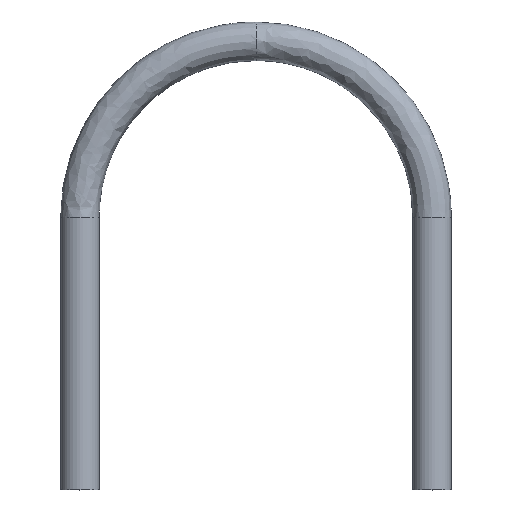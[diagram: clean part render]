
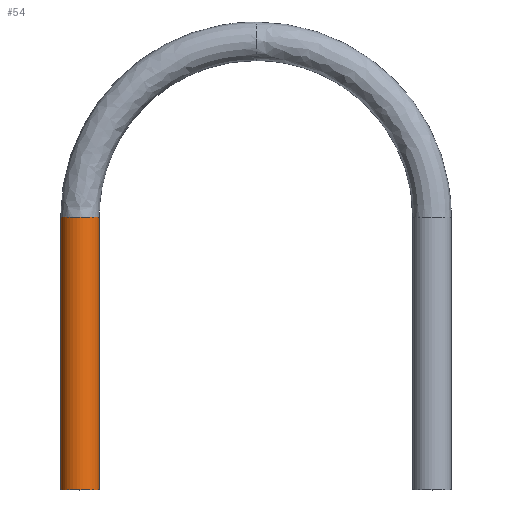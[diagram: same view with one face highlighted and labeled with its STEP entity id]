
A CAD part, top view. The second image highlights one B-rep face of the part: STEP entity #54.
In plain terms, the highlighted cylindrical face has radius 6.35 mm (diameter 12.7 mm), a partial arc.
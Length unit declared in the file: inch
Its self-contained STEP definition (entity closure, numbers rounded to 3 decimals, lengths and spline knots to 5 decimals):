
#54=ADVANCED_FACE('',(#107),#108,.T.);
#107=FACE_OUTER_BOUND('',#227,.T.);
#108=CYLINDRICAL_SURFACE('',#228,0.25);
#227=EDGE_LOOP('',(#488,#489,#490,#491));
#228=AXIS2_PLACEMENT_3D('',#492,#493,#494);
#488=ORIENTED_EDGE('',*,*,#548,.F.);
#489=ORIENTED_EDGE('',*,*,#549,.T.);
#490=ORIENTED_EDGE('',*,*,#550,.F.);
#491=ORIENTED_EDGE('',*,*,#551,.T.);
#492=CARTESIAN_POINT('',(0.,0.0,0.0));
#493=DIRECTION('',(-0.0,-1.0,-0.0));
#494=DIRECTION('',(-1.0,0.0,0.0));
#548=EDGE_CURVE('',#583,#584,#585,.T.);
#549=EDGE_CURVE('',#583,#586,#587,.T.);
#550=EDGE_CURVE('',#588,#586,#589,.T.);
#551=EDGE_CURVE('',#588,#584,#590,.T.);
#583=VERTEX_POINT('',#634);
#584=VERTEX_POINT('',#635);
#585=LINE('',#636,#637);
#586=VERTEX_POINT('',#638);
#587=CIRCLE('',#639,0.25);
#588=VERTEX_POINT('',#640);
#589=LINE('',#641,#642);
#590=CIRCLE('',#643,0.25);
#634=CARTESIAN_POINT('',(-0.25,0.0,0.0));
#635=CARTESIAN_POINT('',(-0.25,3.531,0.0));
#636=CARTESIAN_POINT('',(-0.25,0.0,0.));
#637=VECTOR('',#683,1.0);
#638=CARTESIAN_POINT('',(0.25,0.0,0.));
#639=AXIS2_PLACEMENT_3D('',#684,#685,#686);
#640=CARTESIAN_POINT('',(0.25,3.531,0.));
#641=CARTESIAN_POINT('',(0.25,0.0,0.));
#642=VECTOR('',#687,1.0);
#643=AXIS2_PLACEMENT_3D('',#688,#689,#690);
#683=DIRECTION('',(0.0,1.0,0.0));
#684=CARTESIAN_POINT('',(0.,0.0,0.0));
#685=DIRECTION('',(0.0,1.0,0.0));
#686=DIRECTION('',(-1.0,0.0,0.0));
#687=DIRECTION('',(-0.0,-1.0,-0.0));
#688=CARTESIAN_POINT('',(0.,3.531,0.0));
#689=DIRECTION('',(-0.0,-1.0,-0.0));
#690=DIRECTION('',(-1.0,0.0,0.0));
